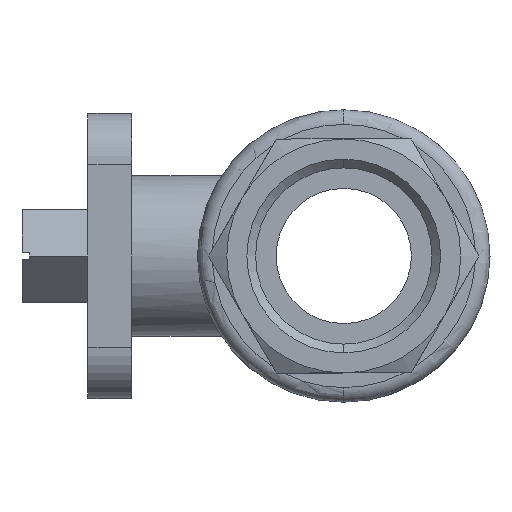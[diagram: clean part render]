
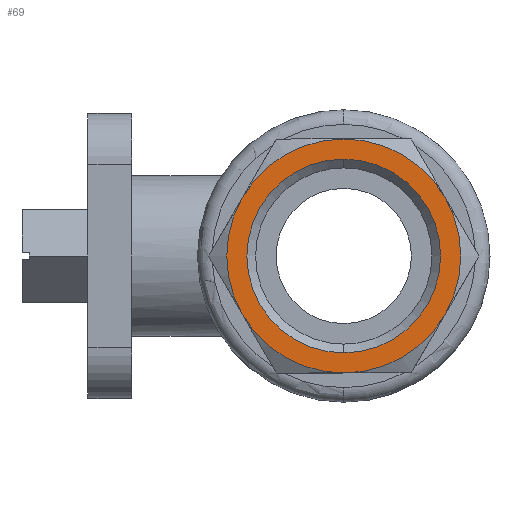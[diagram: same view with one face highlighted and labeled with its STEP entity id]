
A CAD part, left-side view. The second image highlights one B-rep face of the part: STEP entity #69.
In plain terms, the highlighted planar face has unit normal (-1, 0, 0).
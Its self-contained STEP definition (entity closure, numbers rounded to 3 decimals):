
#69 = ADVANCED_FACE ( 'NONE', ( #3066, #3071 ), #2967, .F. ) ;
#390 = CIRCLE ( 'NONE', #4087, 13.246 ) ;
#464 = CIRCLE ( 'NONE', #4097, 16. ) ;
#465 = CIRCLE ( 'NONE', #4089, 16. ) ;
#466 = CIRCLE ( 'NONE', #4098, 13.246 ) ;
#468 = CIRCLE ( 'NONE', #4099, 16. ) ;
#470 = CIRCLE ( 'NONE', #4100, 16. ) ;
#474 = CIRCLE ( 'NONE', #4101, 16. ) ;
#476 = CIRCLE ( 'NONE', #4102, 16. ) ;
#1007 = CARTESIAN_POINT ( 'NONE',  ( -38., 0., 13.246 ) ) ;
#1009 = CARTESIAN_POINT ( 'NONE',  ( -38., 0., 16. ) ) ;
#1015 = CARTESIAN_POINT ( 'NONE',  ( -38., 0., -13.246 ) ) ;
#1032 = CARTESIAN_POINT ( 'NONE',  ( -38., 13.856, -8. ) ) ;
#1040 = CARTESIAN_POINT ( 'NONE',  ( -38., -13.856, 8. ) ) ;
#1061 = CARTESIAN_POINT ( 'NONE',  ( -38., 13.856, 8. ) ) ;
#1068 = CARTESIAN_POINT ( 'NONE',  ( -38., -13.856, -8. ) ) ;
#1126 = CARTESIAN_POINT ( 'NONE',  ( -38., 0., -16. ) ) ;
#1563 = CARTESIAN_POINT ( 'NONE',  ( -38., 0., 0. ) ) ;
#1569 = DIRECTION ( 'NONE',  ( -1., 0., 0. ) ) ;
#1570 = DIRECTION ( 'NONE',  ( 0., 0., 1. ) ) ;
#2088 = CARTESIAN_POINT ( 'NONE',  ( -38., 0., 0. ) ) ;
#2089 = CARTESIAN_POINT ( 'NONE',  ( -38., 0., 0. ) ) ;
#2090 = DIRECTION ( 'NONE',  ( -1., 0., 0. ) ) ;
#2091 = DIRECTION ( 'NONE',  ( 0., 0., 1. ) ) ;
#2092 = CARTESIAN_POINT ( 'NONE',  ( -38., 0., 0. ) ) ;
#2093 = CARTESIAN_POINT ( 'NONE',  ( -38., 0., 0. ) ) ;
#2094 = DIRECTION ( 'NONE',  ( -1., 0., 0. ) ) ;
#2095 = DIRECTION ( 'NONE',  ( 0., 0., 1. ) ) ;
#2096 = CARTESIAN_POINT ( 'NONE',  ( -38., 0., 0. ) ) ;
#2097 = DIRECTION ( 'NONE',  ( -1., 0., 0. ) ) ;
#2098 = DIRECTION ( 'NONE',  ( 0., 0., 1. ) ) ;
#2099 = CARTESIAN_POINT ( 'NONE',  ( -38., 0., 0. ) ) ;
#2100 = DIRECTION ( 'NONE',  ( -1., 0., 0. ) ) ;
#2101 = DIRECTION ( 'NONE',  ( 0., 0., 1. ) ) ;
#2102 = CARTESIAN_POINT ( 'NONE',  ( -38., 0., 0. ) ) ;
#2103 = DIRECTION ( 'NONE',  ( -1., 0., 0. ) ) ;
#2104 = DIRECTION ( 'NONE',  ( 0., 0., 1. ) ) ;
#2110 = DIRECTION ( 'NONE',  ( -1., 0., 0. ) ) ;
#2111 = DIRECTION ( 'NONE',  ( 0., 0., 1. ) ) ;
#2112 = DIRECTION ( 'NONE',  ( -1., 0., 0. ) ) ;
#2113 = DIRECTION ( 'NONE',  ( 0., 0., 1. ) ) ;
#2386 = AXIS2_PLACEMENT_3D ( 'NONE', #2983, #2966, #2965 ) ;
#2614 = VERTEX_POINT ( 'NONE', #1007 ) ;
#2771 = VERTEX_POINT ( 'NONE', #1009 ) ;
#2794 = VERTEX_POINT ( 'NONE', #1015 ) ;
#2849 = VERTEX_POINT ( 'NONE', #1032 ) ;
#2857 = VERTEX_POINT ( 'NONE', #1040 ) ;
#2878 = VERTEX_POINT ( 'NONE', #1061 ) ;
#2885 = VERTEX_POINT ( 'NONE', #1068 ) ;
#2943 = VERTEX_POINT ( 'NONE', #1126 ) ;
#2965 = DIRECTION ( 'NONE',  ( 0., 0., -1. ) ) ;
#2966 = DIRECTION ( 'NONE',  ( 1., 0., 0. ) ) ;
#2967 = PLANE ( 'NONE',  #2386 ) ;
#2983 = CARTESIAN_POINT ( 'NONE',  ( -38., 18.475, 0. ) ) ;
#3066 = FACE_BOUND ( 'NONE', #3692, .T. ) ;
#3071 = FACE_OUTER_BOUND ( 'NONE', #3717, .T. ) ;
#3692 = EDGE_LOOP ( 'NONE', ( #4161, #4160 ) ) ;
#3717 = EDGE_LOOP ( 'NONE', ( #4159, #4158, #4157, #4156, #4155, #4154 ) ) ;
#3973 = EDGE_CURVE ( 'NONE', #2794, #2614, #390, .T. ) ;
#4057 = EDGE_CURVE ( 'NONE', #2878, #2849, #464, .T. ) ;
#4058 = EDGE_CURVE ( 'NONE', #2849, #2943, #465, .T. ) ;
#4059 = EDGE_CURVE ( 'NONE', #2614, #2794, #466, .T. ) ;
#4060 = EDGE_CURVE ( 'NONE', #2857, #2771, #468, .T. ) ;
#4061 = EDGE_CURVE ( 'NONE', #2943, #2885, #470, .T. ) ;
#4064 = EDGE_CURVE ( 'NONE', #2771, #2878, #474, .T. ) ;
#4065 = EDGE_CURVE ( 'NONE', #2885, #2857, #476, .T. ) ;
#4087 = AXIS2_PLACEMENT_3D ( 'NONE', #1563, #1569, #1570 ) ;
#4089 = AXIS2_PLACEMENT_3D ( 'NONE', #2092, #2094, #2095 ) ;
#4097 = AXIS2_PLACEMENT_3D ( 'NONE', #2088, #2090, #2091 ) ;
#4098 = AXIS2_PLACEMENT_3D ( 'NONE', #2089, #2097, #2098 ) ;
#4099 = AXIS2_PLACEMENT_3D ( 'NONE', #2093, #2100, #2101 ) ;
#4100 = AXIS2_PLACEMENT_3D ( 'NONE', #2096, #2103, #2104 ) ;
#4101 = AXIS2_PLACEMENT_3D ( 'NONE', #2099, #2110, #2111 ) ;
#4102 = AXIS2_PLACEMENT_3D ( 'NONE', #2102, #2112, #2113 ) ;
#4154 = ORIENTED_EDGE ( 'NONE', *, *, #4057, .T. ) ;
#4155 = ORIENTED_EDGE ( 'NONE', *, *, #4064, .T. ) ;
#4156 = ORIENTED_EDGE ( 'NONE', *, *, #4060, .T. ) ;
#4157 = ORIENTED_EDGE ( 'NONE', *, *, #4065, .T. ) ;
#4158 = ORIENTED_EDGE ( 'NONE', *, *, #4061, .T. ) ;
#4159 = ORIENTED_EDGE ( 'NONE', *, *, #4058, .T. ) ;
#4160 = ORIENTED_EDGE ( 'NONE', *, *, #3973, .F. ) ;
#4161 = ORIENTED_EDGE ( 'NONE', *, *, #4059, .F. ) ;
